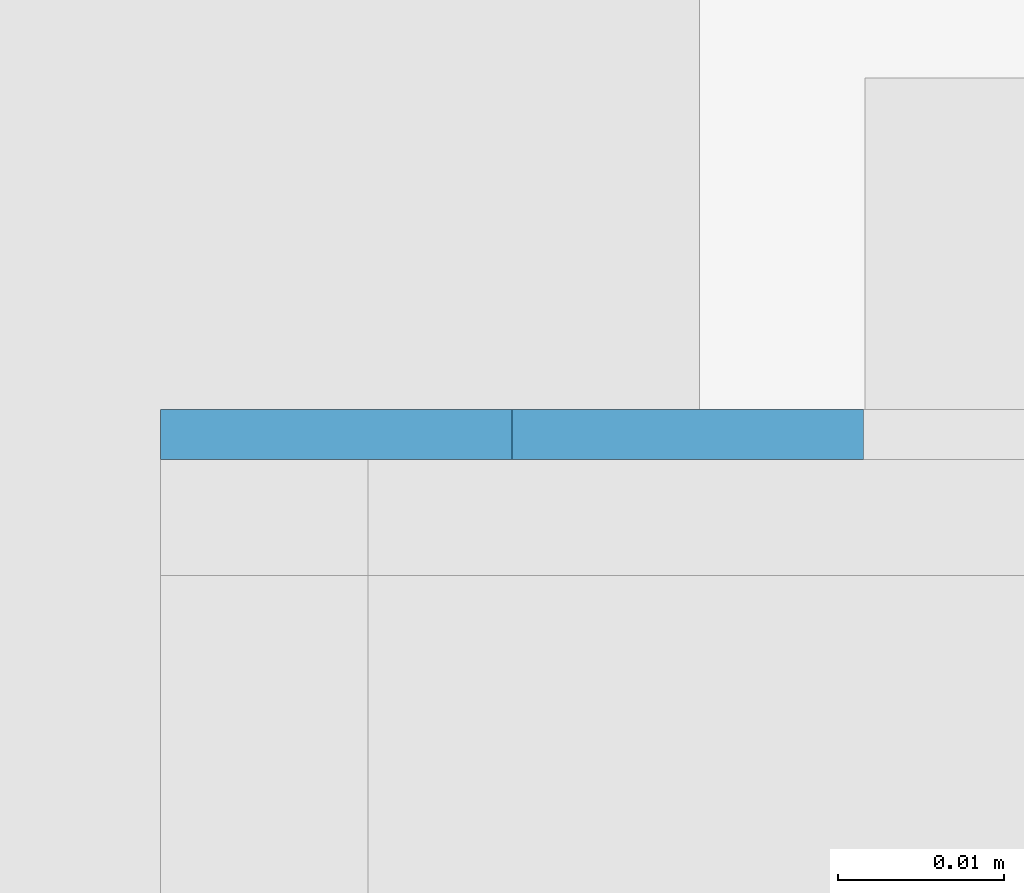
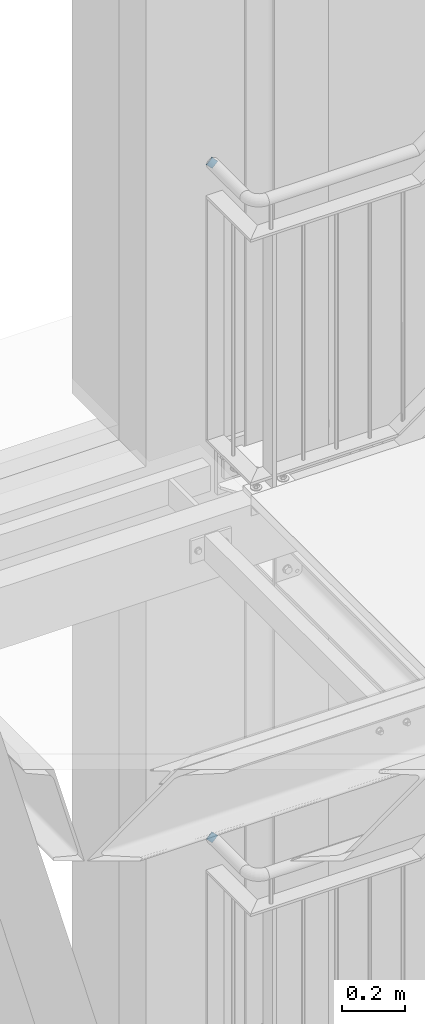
# One storey, part 229 of 831: 2 plates, 8 openings.
"""IFC2X3 building model written with IfcOpenShell, lengths in millimetres."""

from ifc_helpers import new_model, entity, si_unit, converted_unit, point, frame, frame_2d, origin, origin_with_axes, place, context, project, spatial, polyline, circle_curve, line_curve, trimmed, segment, composite_curve, outline, extrude, material, layer, layer_set, element, save


model = new_model("IFC2X3")

# Units and contexts
model_context = context("Model", 3, precision=1e-09, world=origin_with_axes())
ifc_project = project(units=[si_unit("LENGTHUNIT", "METRE", prefix="MILLI"), si_unit("AREAUNIT", "SQUARE_METRE"), si_unit("VOLUMEUNIT", "CUBIC_METRE"), converted_unit("PLANEANGLEUNIT", "DEGREE", entity("IfcPlaneAngleMeasure", 0.01745329), si_unit("PLANEANGLEUNIT", "RADIAN"), dimensions=[0, 0, 0, 0, 0, 0, 0])], contexts=[model_context])

# Site, building, storey
site_placement = place(None, origin_with_axes())
site = spatial("IfcSite", under=ifc_project, at=site_placement, Name="Site", CompositionType="ELEMENT")
building_placement = place(site_placement, origin_with_axes())
building = spatial("IfcBuilding", under=site, at=building_placement, Name="Struktur 1", CompositionType="ELEMENT")
storey_placement = place(building_placement, origin_with_axes())
storey = spatial("IfcBuildingStorey", under=building, at=storey_placement, Name="Default Storey", CompositionType="ELEMENT", Elevation=0.0)

# Plate, openings
ifc_material = material(Name="S235JR")
ifc_layer = layer(ifc_material, 3.0)
ifc_layer_set = layer_set([ifc_layer], Name="S235JR")
plate_1_placement = place(None, frame((4614.213403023, 7608.736971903, 11092.000000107), z_axis=(0.0, 1.0, 0.0), x_axis=(0.0, 0.0, 1.0)))
plate_1 = element("IfcPlate", 1, at=plate_1_placement, inside=storey, material=ifc_layer_set, Name="-", ObjectType="-", context=model_context, shape_type="SweptSolid", body=[
    extrude(outline(polyline([(21.2, 0.0), (21.2, 42.4), (-21.2, 42.4), (-21.2, 0.0), (21.2, 0.0)])), origin_with_axes(), (0.0, 0.0, 1.0), 3.0),
])
opening_1_placement = place(plate_1_placement, frame((0.0, 0.0, -0.01), z_axis=(0.0, 0.0, 1.0), x_axis=(1.0, 0.0, 0.0)))
element("IfcOpeningElement", 2, at=opening_1_placement, cuts=plate_1, ObjectType="Opening", context=model_context, shape_type="SweptSolid", body=[
    extrude(outline(composite_curve([segment(trimmed(line_curve((21.2, 0.0), (0.0, 1.0), 21.2), [point((21.2, 0.0))], [point((21.2, 21.2))], True, "CARTESIAN"), True, "CONTINUOUS"), segment(trimmed(circle_curve(frame_2d((0.0, 21.2), x_axis=(-1.0, 0.0)), 21.2), [point((21.2, 21.2))], [point((0.0, 0.0))], False, "CARTESIAN"), True, "CONTINUOUS"), segment(trimmed(line_curve((0.0, 0.0), (1.0, 0.0), 21.2), [point((0.0, 0.0))], [point((21.2, 0.0))], True, "CARTESIAN"), True, "CONTINUOUS")], self_intersect=False)), origin(), (0.0, 0.0, 1.0), 3.02),
])
opening_2_placement = place(plate_1_placement, frame((0.0, 0.0, -0.01), z_axis=(0.0, 0.0, 1.0), x_axis=(1.0, 0.0, 0.0)))
element("IfcOpeningElement", 3, at=opening_2_placement, cuts=plate_1, ObjectType="Opening", context=model_context, shape_type="SweptSolid", body=[
    extrude(outline(composite_curve([segment(trimmed(line_curve((21.2, 42.4), (-1.0, 0.0), 21.2), [point((21.2, 42.4))], [point((0.0, 42.4))], True, "CARTESIAN"), True, "CONTINUOUS"), segment(trimmed(circle_curve(frame_2d((0.0, 21.2), x_axis=(-1.0, 0.0)), 21.2), [point((0.0, 42.4))], [point((21.2, 21.2))], False, "CARTESIAN"), True, "CONTINUOUS"), segment(trimmed(line_curve((21.2, 21.2), (0.0, 1.0), 21.2), [point((21.2, 21.2))], [point((21.2, 42.4))], True, "CARTESIAN"), True, "CONTINUOUS")], self_intersect=False)), origin(), (0.0, 0.0, 1.0), 3.02),
])
opening_3_placement = place(plate_1_placement, frame((0.0, 0.0, -0.01), z_axis=(0.0, 0.0, 1.0), x_axis=(1.0, 0.0, 0.0)))
element("IfcOpeningElement", 4, at=opening_3_placement, cuts=plate_1, ObjectType="Opening", context=model_context, shape_type="SweptSolid", body=[
    extrude(outline(composite_curve([segment(trimmed(line_curve((-21.2, 42.4), (0.0, -1.0), 21.2), [point((-21.2, 42.4))], [point((-21.2, 21.2))], True, "CARTESIAN"), True, "CONTINUOUS"), segment(trimmed(circle_curve(frame_2d((0.0, 21.2), x_axis=(-1.0, 0.0)), 21.2), [point((-21.2, 21.2))], [point((0.0, 42.4))], False, "CARTESIAN"), True, "CONTINUOUS"), segment(trimmed(line_curve((0.0, 42.4), (-1.0, 0.0), 21.2), [point((0.0, 42.4))], [point((-21.2, 42.4))], True, "CARTESIAN"), True, "CONTINUOUS")], self_intersect=False)), origin(), (0.0, 0.0, 1.0), 3.02),
])
opening_4_placement = place(plate_1_placement, frame((0.0, 0.0, -0.01), z_axis=(0.0, 0.0, 1.0), x_axis=(1.0, 0.0, 0.0)))
element("IfcOpeningElement", 5, at=opening_4_placement, cuts=plate_1, ObjectType="Opening", context=model_context, shape_type="SweptSolid", body=[
    extrude(outline(composite_curve([segment(trimmed(line_curve((-21.2, 0.0), (1.0, 0.0), 21.2), [point((-21.2, 0.0))], [point((0.0, 0.0))], True, "CARTESIAN"), True, "CONTINUOUS"), segment(trimmed(circle_curve(frame_2d((0.0, 21.2), x_axis=(-1.0, 0.0)), 21.2), [point((0.0, 0.0))], [point((-21.2, 21.2))], False, "CARTESIAN"), True, "CONTINUOUS"), segment(trimmed(line_curve((-21.2, 21.2), (0.0, -1.0), 21.2), [point((-21.2, 21.2))], [point((-21.2, 0.0))], True, "CARTESIAN"), True, "CONTINUOUS")], self_intersect=False)), origin(), (0.0, 0.0, 1.0), 3.02),
])

plate_2_placement = place(None, frame((4614.213403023, 7608.736971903, 8460.000000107), z_axis=(0.0, 1.0, 0.0), x_axis=(0.0, 0.0, 1.0)))
plate_2 = element("IfcPlate", 6, at=plate_2_placement, inside=storey, material=ifc_layer_set, Name="-", ObjectType="-", context=model_context, shape_type="SweptSolid", body=[
    extrude(outline(polyline([(21.2, 0.0), (21.2, 42.4), (-21.2, 42.4), (-21.2, 0.0), (21.2, 0.0)])), origin_with_axes(), (0.0, 0.0, 1.0), 3.0),
])
opening_5_placement = place(plate_2_placement, frame((0.0, 0.0, -0.01), z_axis=(0.0, 0.0, 1.0), x_axis=(1.0, 0.0, 0.0)))
element("IfcOpeningElement", 7, at=opening_5_placement, cuts=plate_2, ObjectType="Opening", context=model_context, shape_type="SweptSolid", body=[
    extrude(outline(composite_curve([segment(trimmed(line_curve((21.2, 0.0), (0.0, 1.0), 21.2), [point((21.2, 0.0))], [point((21.2, 21.2))], True, "CARTESIAN"), True, "CONTINUOUS"), segment(trimmed(circle_curve(frame_2d((0.0, 21.2), x_axis=(-1.0, 0.0)), 21.2), [point((21.2, 21.2))], [point((0.0, 0.0))], False, "CARTESIAN"), True, "CONTINUOUS"), segment(trimmed(line_curve((0.0, 0.0), (1.0, 0.0), 21.2), [point((0.0, 0.0))], [point((21.2, 0.0))], True, "CARTESIAN"), True, "CONTINUOUS")], self_intersect=False)), origin(), (0.0, 0.0, 1.0), 3.02),
])
opening_6_placement = place(plate_2_placement, frame((0.0, 0.0, -0.01), z_axis=(0.0, 0.0, 1.0), x_axis=(1.0, 0.0, 0.0)))
element("IfcOpeningElement", 8, at=opening_6_placement, cuts=plate_2, ObjectType="Opening", context=model_context, shape_type="SweptSolid", body=[
    extrude(outline(composite_curve([segment(trimmed(line_curve((21.2, 42.4), (-1.0, 0.0), 21.2), [point((21.2, 42.4))], [point((0.0, 42.4))], True, "CARTESIAN"), True, "CONTINUOUS"), segment(trimmed(circle_curve(frame_2d((0.0, 21.2), x_axis=(-1.0, 0.0)), 21.2), [point((0.0, 42.4))], [point((21.2, 21.2))], False, "CARTESIAN"), True, "CONTINUOUS"), segment(trimmed(line_curve((21.2, 21.2), (0.0, 1.0), 21.2), [point((21.2, 21.2))], [point((21.2, 42.4))], True, "CARTESIAN"), True, "CONTINUOUS")], self_intersect=False)), origin(), (0.0, 0.0, 1.0), 3.02),
])
opening_7_placement = place(plate_2_placement, frame((0.0, 0.0, -0.01), z_axis=(0.0, 0.0, 1.0), x_axis=(1.0, 0.0, 0.0)))
element("IfcOpeningElement", 9, at=opening_7_placement, cuts=plate_2, ObjectType="Opening", context=model_context, shape_type="SweptSolid", body=[
    extrude(outline(composite_curve([segment(trimmed(line_curve((-21.2, 42.4), (0.0, -1.0), 21.2), [point((-21.2, 42.4))], [point((-21.2, 21.2))], True, "CARTESIAN"), True, "CONTINUOUS"), segment(trimmed(circle_curve(frame_2d((0.0, 21.2), x_axis=(-1.0, 0.0)), 21.2), [point((-21.2, 21.2))], [point((0.0, 42.4))], False, "CARTESIAN"), True, "CONTINUOUS"), segment(trimmed(line_curve((0.0, 42.4), (-1.0, 0.0), 21.2), [point((0.0, 42.4))], [point((-21.2, 42.4))], True, "CARTESIAN"), True, "CONTINUOUS")], self_intersect=False)), origin(), (0.0, 0.0, 1.0), 3.02),
])
opening_8_placement = place(plate_2_placement, frame((0.0, 0.0, -0.01), z_axis=(0.0, 0.0, 1.0), x_axis=(1.0, 0.0, 0.0)))
element("IfcOpeningElement", 10, at=opening_8_placement, cuts=plate_2, ObjectType="Opening", context=model_context, shape_type="SweptSolid", body=[
    extrude(outline(composite_curve([segment(trimmed(line_curve((-21.2, 0.0), (1.0, 0.0), 21.2), [point((-21.2, 0.0))], [point((0.0, 0.0))], True, "CARTESIAN"), True, "CONTINUOUS"), segment(trimmed(circle_curve(frame_2d((0.0, 21.2), x_axis=(-1.0, 0.0)), 21.2), [point((0.0, 0.0))], [point((-21.2, 21.2))], False, "CARTESIAN"), True, "CONTINUOUS"), segment(trimmed(line_curve((-21.2, 21.2), (0.0, -1.0), 21.2), [point((-21.2, 21.2))], [point((-21.2, 0.0))], True, "CARTESIAN"), True, "CONTINUOUS")], self_intersect=False)), origin(), (0.0, 0.0, 1.0), 3.02),
])

save(model, "model.ifc")
